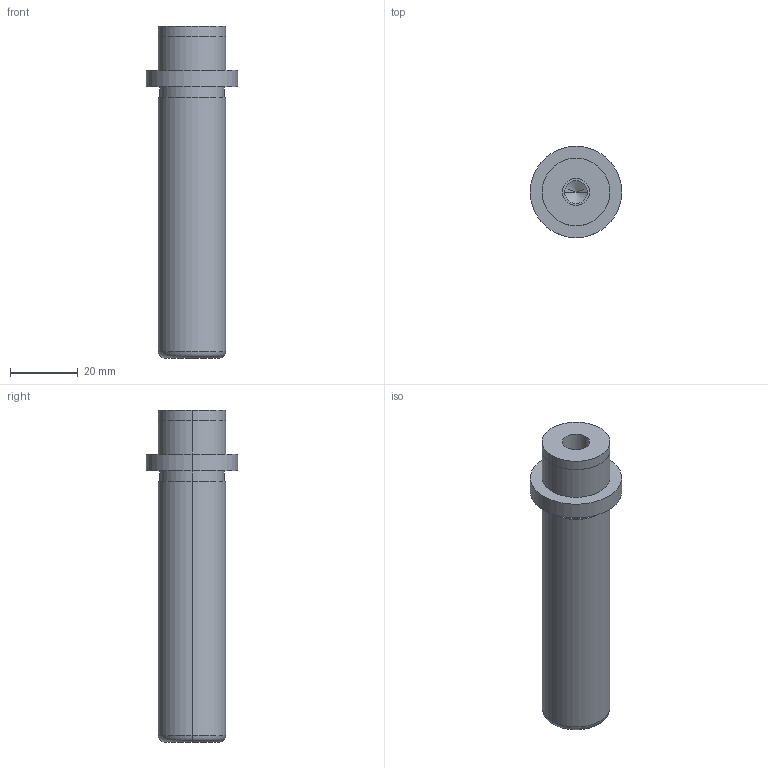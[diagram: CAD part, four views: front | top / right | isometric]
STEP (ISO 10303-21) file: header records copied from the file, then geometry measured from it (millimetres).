
FILE_DESCRIPTION(/* description */ (''),/* implementation_level */ '2;1');
FILE_NAME(/* name */ '3d_sgpw20-85_05262_r00.stp',/* time_stamp */ '2011-01-10T14:11:03+09:00',/* author */ ('MISUMI'),/* organization */ (''),/* preprocessor_version */ 'ST-DEVELOPER v11',/* originating_system */ 'UGS - NX 5.0',/* authorisation */ '');
FILE_SCHEMA (('CONFIG_CONTROL_DESIGN'));
Length unit declared in the file: millimetre
Products named in the file (1): 3d_sgpw20-85_05262_r00
Bounding box: 27 x 27 x 98 mm (x, y, z)
Volume: 29933.8 mm3; surface area: 8410.2 mm2
Topology: 1 solids, 1 shells, 31 faces, 64 edges, 38 vertices
Faces by surface type: cylinder 18, plane 7, cone 4, torus 2
Entity records: 890 total; most frequent: DIRECTION 162, CARTESIAN_POINT 130, ORIENTED_EDGE 120, AXIS2_PLACEMENT_3D 70, EDGE_CURVE 60, EDGE_LOOP 38, CIRCLE 38, VERTEX_POINT 38
